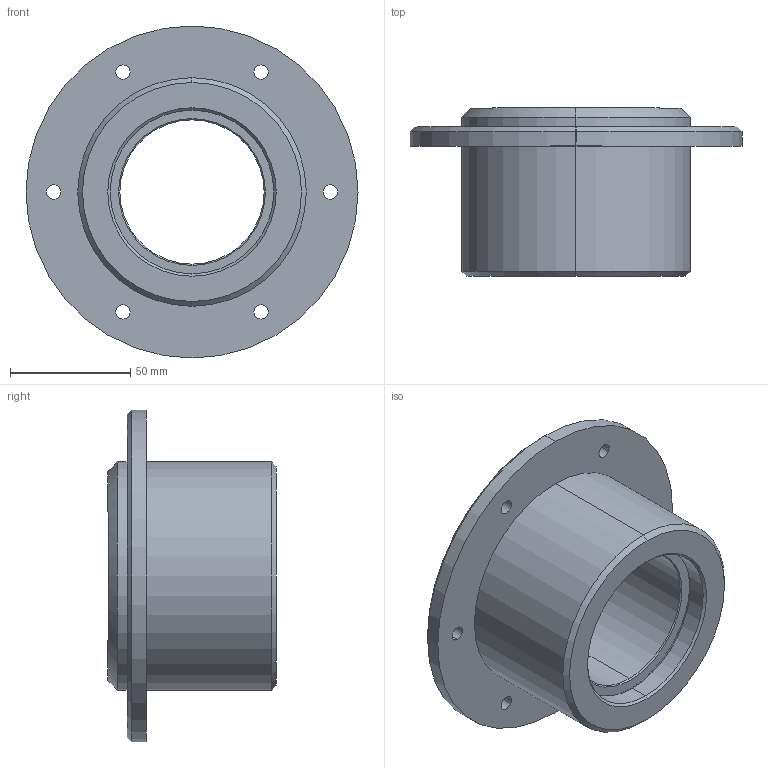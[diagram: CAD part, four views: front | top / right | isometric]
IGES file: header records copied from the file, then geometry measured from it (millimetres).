
Start section: 3D InterOp IGES (Version 20 0 1), Spatial Corp. Copyright (c) 1999-2007.
Global section: file name: 10.13.06.igs; native system: Spatial Corp.; preprocessor: 3D InterOp GENERIC/IGES 3.0; author: Noname; organization: Noname; date: 20111110.164903; units: metre
Bounding box: 138 x 70 x 138 mm (x, y, z)
Surface area: 85327.5 mm2 (no closed solid volume)
Topology: 0 solids, 0 shells, 87 faces, 1000 edges, 1580 vertices
Faces by surface type: revolution 70, extrusion 15, bspline 2
